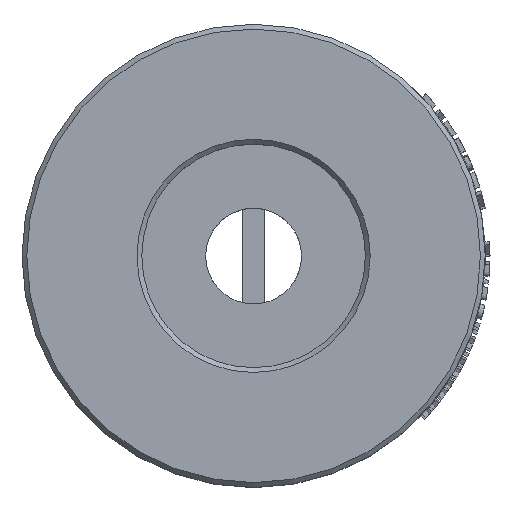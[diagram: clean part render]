
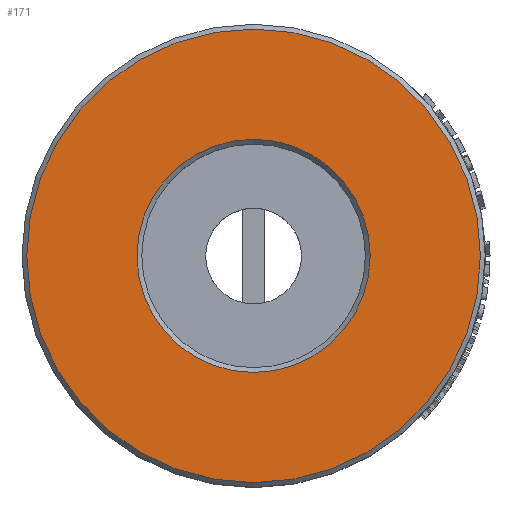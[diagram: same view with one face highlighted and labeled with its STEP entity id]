
A CAD part, top view. The second image highlights one B-rep face of the part: STEP entity #171.
In plain terms, the highlighted planar face has unit normal (0, 0, 1).
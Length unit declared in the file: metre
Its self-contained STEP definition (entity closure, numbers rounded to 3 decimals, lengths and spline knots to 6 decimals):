
#171 = ADVANCED_FACE( '', ( #508, #509 ), #510, .F. );
#508 = FACE_BOUND( '', #1656, .T. );
#509 = FACE_OUTER_BOUND( '', #1657, .T. );
#510 = PLANE( '', #1658 );
#1656 = EDGE_LOOP( '', ( #4712 ) );
#1657 = EDGE_LOOP( '', ( #4713 ) );
#1658 = AXIS2_PLACEMENT_3D( '', #4714, #4715, #4716 );
#4712 = ORIENTED_EDGE( '', *, *, #5825, .T. );
#4713 = ORIENTED_EDGE( '', *, *, #5826, .T. );
#4714 = CARTESIAN_POINT( '', ( 0.0145, 0., 0.008552 ) );
#4715 = DIRECTION( '', ( 0., 0., -1. ) );
#4716 = DIRECTION( '', ( -1., 0., 0. ) );
#5825 = EDGE_CURVE( '', #6618, #6618, #6619, .T. );
#5826 = EDGE_CURVE( '', #6620, #6620, #6621, .F. );
#6618 = VERTEX_POINT( '', #8542 );
#6619 = CIRCLE( '', #8543, 0.0073 );
#6620 = VERTEX_POINT( '', #8544 );
#6621 = CIRCLE( '', #8545, 0.0142 );
#8542 = CARTESIAN_POINT( '', ( -0.0073, 0., 0.008552 ) );
#8543 = AXIS2_PLACEMENT_3D( '', #9890, #9891, #9892 );
#8544 = CARTESIAN_POINT( '', ( -0.0142, 0., 0.008552 ) );
#8545 = AXIS2_PLACEMENT_3D( '', #9893, #9894, #9895 );
#9890 = CARTESIAN_POINT( '', ( 0., 0., 0.008552 ) );
#9891 = DIRECTION( '', ( 0., 0., -1. ) );
#9892 = DIRECTION( '', ( -1., 0., 0. ) );
#9893 = CARTESIAN_POINT( '', ( 0., 0., 0.008552 ) );
#9894 = DIRECTION( '', ( 0., 0., -1. ) );
#9895 = DIRECTION( '', ( -1., 0., 0. ) );
